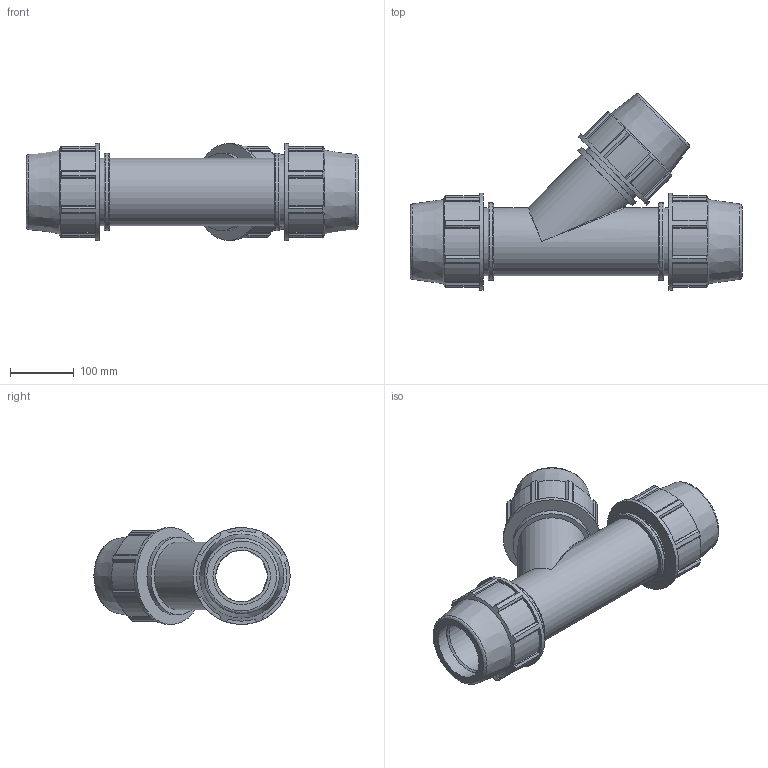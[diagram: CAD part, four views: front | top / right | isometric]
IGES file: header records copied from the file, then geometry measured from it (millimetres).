
Global section: file name: 0764060900A.ipt; native system: Autodesk Inventor 2015; preprocessor: unknown; author: KIM; date: 20170608.042744; units: millimetre
Bounding box: 520 x 307.54 x 152 mm (x, y, z)
Volume: 3975631.8 mm3; surface area: 542825.2 mm2
Topology: 1 solids, 1 shells, 200 faces, 569 edges, 381 vertices
Faces by surface type: plane 139, cylinder 36, revolution 17, cone 6, bspline 2
Full cylindrical faces by diameter (mm): 106.4 x5, 121.6 x3, 152 x3
